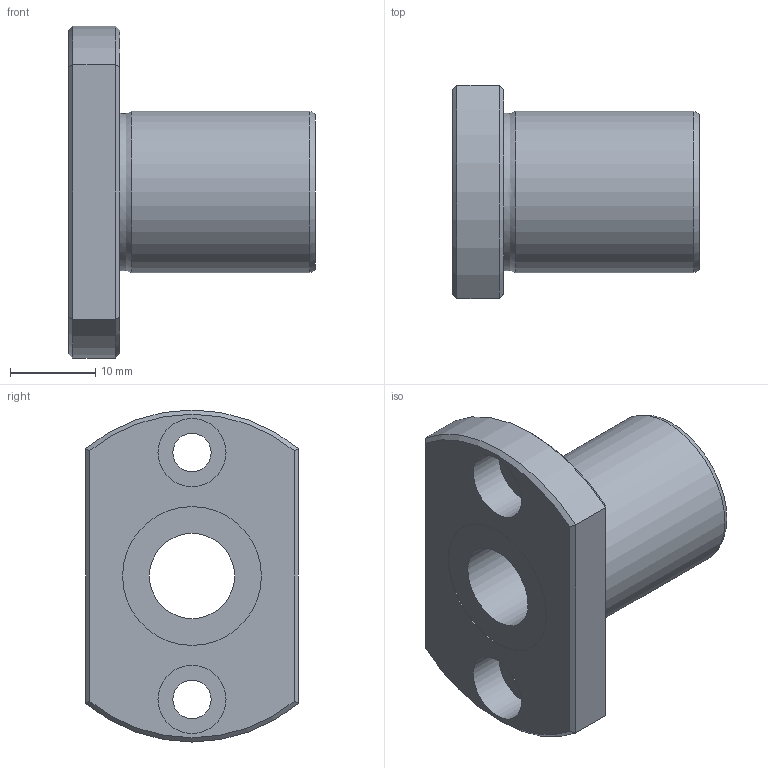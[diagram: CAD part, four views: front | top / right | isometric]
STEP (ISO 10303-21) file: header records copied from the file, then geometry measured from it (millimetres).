
FILE_DESCRIPTION((''),'2;1');
FILE_NAME('D:\製品 (図面)\カタログ用3D\リニアベアリング関連\STEP形式\LFT\LFT10.stp','2010-06-04T09:15:56',('Tsuchiya'),(''),'Autodesk Inventor 10','Autodesk Inventor 10','');
FILE_SCHEMA(('AUTOMOTIVE_DESIGN { 1 0 10303 214 1 1 1 1 }'));
Length unit declared in the file: millimetre
Products named in the file (1): LFT10
Bounding box: 29 x 25 x 39 mm (x, y, z)
Volume: 9097.6 mm3; surface area: 4754.2 mm2
Topology: 1 solids, 1 shells, 29 faces, 56 edges, 34 vertices
Faces by surface type: plane 13, cylinder 10, cone 4, torus 1, bspline 1
Full cylindrical faces by diameter (mm): 4.5 x2, 8 x2, 10 x1, 16.3 x2, 19 x1
Entity records: 787 total; most frequent: CARTESIAN_POINT 196, DIRECTION 122, ORIENTED_EDGE 92, AXIS2_PLACEMENT_3D 55, EDGE_LOOP 50, EDGE_CURVE 46, VERTEX_POINT 34, FACE_OUTER_BOUND 29
